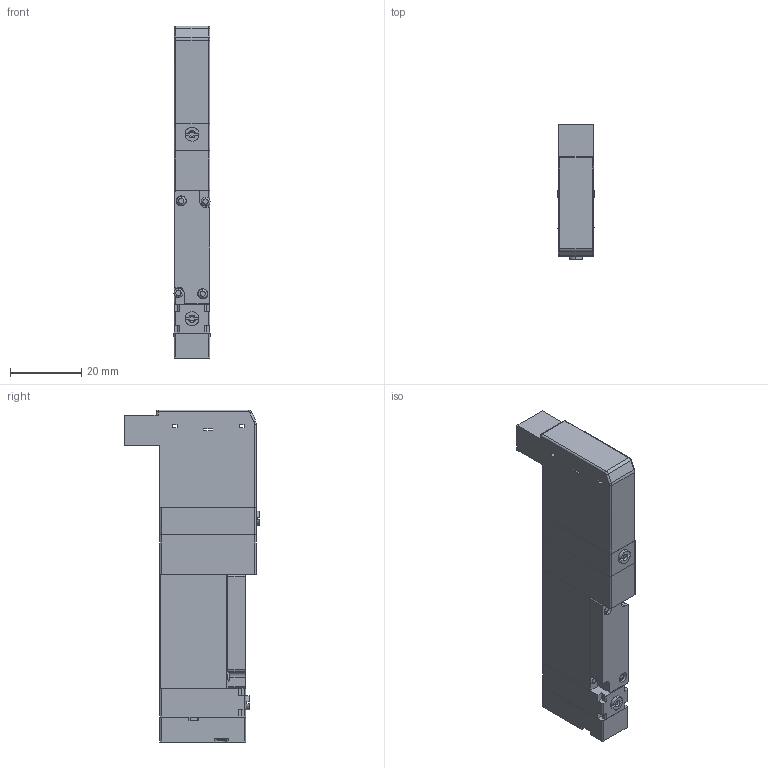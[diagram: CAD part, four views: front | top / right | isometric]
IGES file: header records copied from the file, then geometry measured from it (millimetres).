
Start section: ------------------------------------------------------------------------
Global section: file name: D:\ICADMX\tmp\trans3d_spg\CVICAD02.18204.F10T2-A1_8628.igs; native system: spGate; preprocessor: ver12.6.6; author: Unknown; organization: Unknown; date: 200901.142443; units: millimetre
Bounding box: 10.2 x 38 x 93 mm (x, y, z)
Volume: 24158.5 mm3; surface area: 11041.5 mm2
Topology: 7 solids, 7 shells, 222 faces, 562 edges, 366 vertices
Faces by surface type: bspline 222
